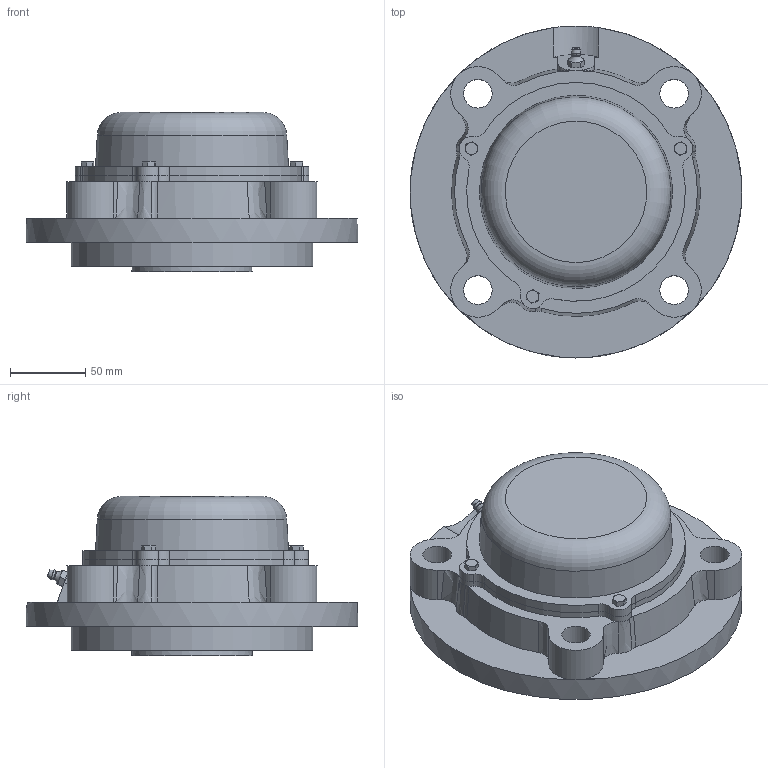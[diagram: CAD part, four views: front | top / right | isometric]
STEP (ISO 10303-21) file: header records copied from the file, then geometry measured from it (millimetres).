
FILE_DESCRIPTION((''),'2;1');
FILE_NAME('\\Ts-tgl068\j-cad-d-base\00.3DCADデータ作成フォルダ\02.フランジ形\CUKFC200\CUKFC215CE+H.stp','2014-05-22T08:58:22',('btec_1106_2'),(''),'Autodesk Inventor 2012','Autodesk Inventor 2012','');
FILE_SCHEMA(('AUTOMOTIVE_DESIGN { 1 0 10303 214 1 1 1 1 }'));
Length unit declared in the file: millimetre
Products named in the file (7): CUKFC200CE+H; CFC215; UK215; G1; 215CE; M5X0
Assembly tree (8 placements, depth 3):
  CUKFC200CE+H
    CFC215
    UK215
    G1
    215CE
      215CE
      M5X0  x3
Bounding box: 220 x 220 x 105.5 mm (x, y, z)
Volume: 1307026.6 mm3; surface area: 246419.7 mm2
Topology: 7 solids, 7 shells, 317 faces, 790 edges, 502 vertices
Faces by surface type: plane 125, cylinder 91, cone 79, bspline 14, sphere 4, torus 4
Full cylindrical faces by diameter (mm): 4.134 x3, 5 x3, 6 x3, 8.566 x1, 9.728 x1, 19 x4, 65 x1, 75 x1, 91.5 x2, 130 x1, 135 x1, 160 x1, 220 x1
Entity records: 8937 total; most frequent: CARTESIAN_POINT 2360, DIRECTION 1331, ORIENTED_EDGE 1324, EDGE_CURVE 662, AXIS2_PLACEMENT_3D 553, VERTEX_POINT 438, EDGE_LOOP 356, FACE_OUTER_BOUND 283
